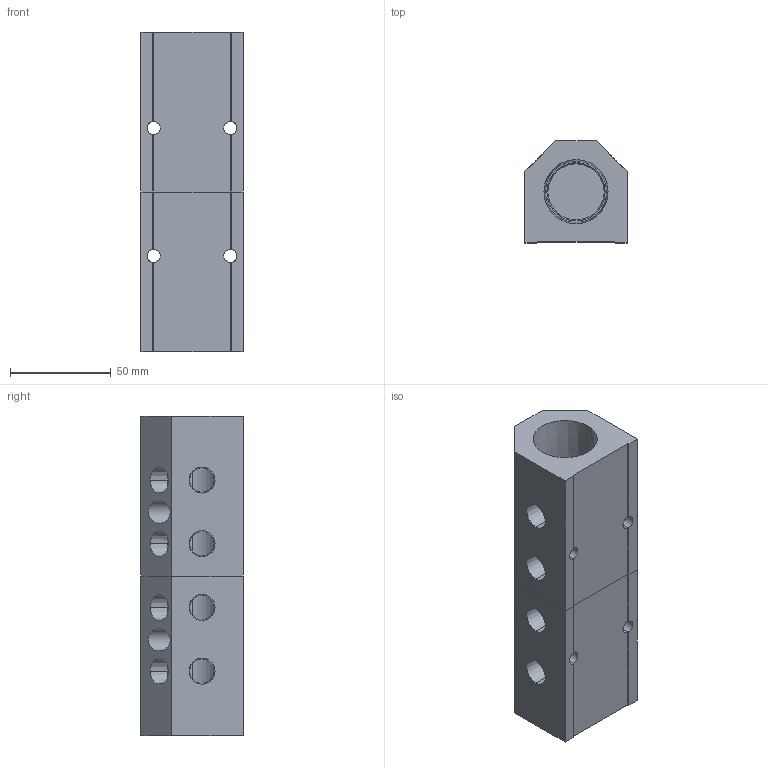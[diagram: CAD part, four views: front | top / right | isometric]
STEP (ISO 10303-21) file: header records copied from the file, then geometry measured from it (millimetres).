
FILE_DESCRIPTION (( 'STEP AP214' ), '1' );
FILE_NAME ('ALM4ABC-N4N16-159RB.STEP', '2023-11-02T06:09:29', ( '' ), ( '' ), 'SwSTEP 2.0', 'SolidWorks 2020', '' );
FILE_SCHEMA (( 'AUTOMOTIVE_DESIGN' ));
Length unit declared in the file: millimetre
Products named in the file (1): ALM4ABC-N4N16-159RB
Bounding box: 50.8 x 50.8 x 159 mm (x, y, z)
Volume: 240639.1 mm3; surface area: 59138 mm2
Topology: 2 solids, 2 shells, 368 faces, 968 edges, 640 vertices
Faces by surface type: plane 251, bspline 61, cone 32, cylinder 24
Entity records: 19554 total; most frequent: CARTESIAN_POINT 7430, ORIENTED_EDGE 1936, DIRECTION 1486, EDGE_CURVE 968, VECTOR 726, LINE 726, VERTEX_POINT 640, EDGE_LOOP 436
